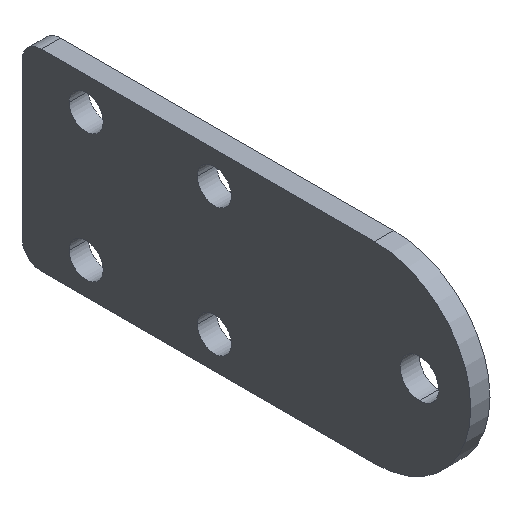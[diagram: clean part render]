
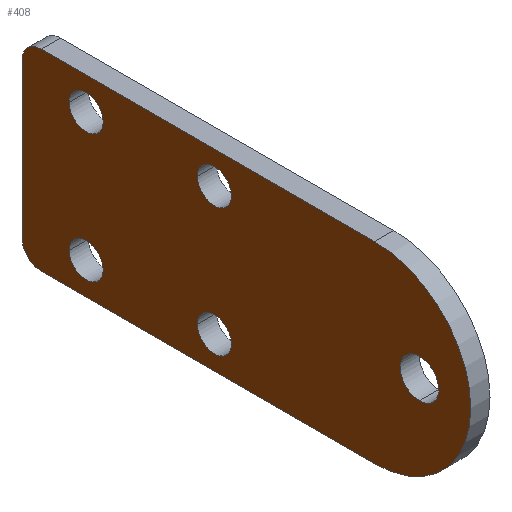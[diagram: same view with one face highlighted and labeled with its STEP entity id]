
A CAD part, isometric view. The second image highlights one B-rep face of the part: STEP entity #408.
In plain terms, the highlighted planar face has unit normal (-1, 0, 0).
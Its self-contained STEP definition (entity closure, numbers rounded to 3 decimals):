
#86=CARTESIAN_POINT('',(-3.,-62.,15.));
#87=DIRECTION('',(-1.,0.,0.));
#88=DIRECTION('',(0.,0.,-1.));
#89=AXIS2_PLACEMENT_3D('',#86,#87,#88);
#91=CARTESIAN_POINT('',(-3.,-62.,15.));
#92=DIRECTION('',(-1.,0.,0.));
#93=DIRECTION('',(0.,0.,1.));
#94=AXIS2_PLACEMENT_3D('',#91,#92,#93);
#96=CARTESIAN_POINT('',(-3.,-55.,15.));
#97=DIRECTION('',(-1.,0.,0.));
#98=DIRECTION('',(0.,0.,-1.));
#99=AXIS2_PLACEMENT_3D('',#96,#97,#98);
#101=DIRECTION('',(0.,1.,0.));
#102=VECTOR('',#101,52.);
#103=CARTESIAN_POINT('',(-3.,-55.,0.));
#104=LINE('',#103,#102);
#105=CARTESIAN_POINT('',(-3.,-3.,3.));
#106=DIRECTION('',(-1.,0.,0.));
#107=DIRECTION('',(0.,1.,0.));
#108=AXIS2_PLACEMENT_3D('',#105,#106,#107);
#110=DIRECTION('',(0.,0.,1.));
#111=VECTOR('',#110,24.);
#112=CARTESIAN_POINT('',(-3.,0.,3.));
#113=LINE('',#112,#111);
#114=CARTESIAN_POINT('',(-3.,-3.,27.));
#115=DIRECTION('',(-1.,0.,0.));
#116=DIRECTION('',(0.,0.,1.));
#117=AXIS2_PLACEMENT_3D('',#114,#115,#116);
#119=DIRECTION('',(0.,-1.,0.));
#120=VECTOR('',#119,52.);
#121=CARTESIAN_POINT('',(-3.,-3.,30.));
#122=LINE('',#121,#120);
#123=CARTESIAN_POINT('',(-3.,-10.,25.));
#124=DIRECTION('',(-1.,0.,0.));
#125=DIRECTION('',(0.,1.,0.));
#126=AXIS2_PLACEMENT_3D('',#123,#124,#125);
#128=CARTESIAN_POINT('',(-3.,-10.,25.));
#129=DIRECTION('',(-1.,0.,0.));
#130=DIRECTION('',(0.,-1.,0.));
#131=AXIS2_PLACEMENT_3D('',#128,#129,#130);
#133=CARTESIAN_POINT('',(-3.,-30.,25.));
#134=DIRECTION('',(-1.,0.,0.));
#135=DIRECTION('',(0.,1.,0.));
#136=AXIS2_PLACEMENT_3D('',#133,#134,#135);
#138=CARTESIAN_POINT('',(-3.,-30.,25.));
#139=DIRECTION('',(-1.,0.,0.));
#140=DIRECTION('',(0.,-1.,0.));
#141=AXIS2_PLACEMENT_3D('',#138,#139,#140);
#143=CARTESIAN_POINT('',(-3.,-30.,5.));
#144=DIRECTION('',(-1.,0.,0.));
#145=DIRECTION('',(0.,1.,0.));
#146=AXIS2_PLACEMENT_3D('',#143,#144,#145);
#148=CARTESIAN_POINT('',(-3.,-30.,5.));
#149=DIRECTION('',(-1.,0.,0.));
#150=DIRECTION('',(0.,-1.,0.));
#151=AXIS2_PLACEMENT_3D('',#148,#149,#150);
#153=CARTESIAN_POINT('',(-3.,-10.,5.));
#154=DIRECTION('',(-1.,0.,0.));
#155=DIRECTION('',(0.,1.,0.));
#156=AXIS2_PLACEMENT_3D('',#153,#154,#155);
#158=CARTESIAN_POINT('',(-3.,-10.,5.));
#159=DIRECTION('',(-1.,0.,0.));
#160=DIRECTION('',(0.,-1.,0.));
#161=AXIS2_PLACEMENT_3D('',#158,#159,#160);
#223=CARTESIAN_POINT('',(-3.,-62.,12.));
#224=CARTESIAN_POINT('',(-3.,-62.,18.));
#225=VERTEX_POINT('',#223);
#226=VERTEX_POINT('',#224);
#227=CARTESIAN_POINT('',(-3.,-55.,0.));
#228=CARTESIAN_POINT('',(-3.,-55.,30.));
#229=VERTEX_POINT('',#227);
#230=VERTEX_POINT('',#228);
#239=CARTESIAN_POINT('',(-3.,-3.,30.));
#240=VERTEX_POINT('',#239);
#241=CARTESIAN_POINT('',(-3.,-3.,0.));
#242=VERTEX_POINT('',#241);
#247=CARTESIAN_POINT('',(-3.,-7.35,25.));
#248=CARTESIAN_POINT('',(-3.,-12.65,25.));
#249=VERTEX_POINT('',#247);
#250=VERTEX_POINT('',#248);
#255=CARTESIAN_POINT('',(-3.,-27.35,25.));
#256=CARTESIAN_POINT('',(-3.,-32.65,25.));
#257=VERTEX_POINT('',#255);
#258=VERTEX_POINT('',#256);
#263=CARTESIAN_POINT('',(-3.,-27.35,5.));
#264=CARTESIAN_POINT('',(-3.,-32.65,5.));
#265=VERTEX_POINT('',#263);
#266=VERTEX_POINT('',#264);
#271=CARTESIAN_POINT('',(-3.,-7.35,5.));
#272=CARTESIAN_POINT('',(-3.,-12.65,5.));
#273=VERTEX_POINT('',#271);
#274=VERTEX_POINT('',#272);
#275=CARTESIAN_POINT('',(-3.,0.,27.));
#276=VERTEX_POINT('',#275);
#279=CARTESIAN_POINT('',(-3.,0.,3.));
#280=VERTEX_POINT('',#279);
#361=CARTESIAN_POINT('',(-3.,0.,0.));
#362=DIRECTION('',(1.,0.,0.));
#363=DIRECTION('',(0.,0.,-1.));
#364=AXIS2_PLACEMENT_3D('',#361,#362,#363);
#365=PLANE('',#364);
#367=ORIENTED_EDGE('',*,*,#366,.F.);
#369=ORIENTED_EDGE('',*,*,#368,.T.);
#371=ORIENTED_EDGE('',*,*,#370,.F.);
#373=ORIENTED_EDGE('',*,*,#372,.T.);
#375=ORIENTED_EDGE('',*,*,#374,.F.);
#377=ORIENTED_EDGE('',*,*,#376,.T.);
#378=EDGE_LOOP('',(#367,#369,#371,#373,#375,#377));
#379=FACE_OUTER_BOUND('',#378,.F.);
#380=ORIENTED_EDGE('',*,*,#341,.T.);
#381=ORIENTED_EDGE('',*,*,#355,.T.);
#382=EDGE_LOOP('',(#380,#381));
#383=FACE_BOUND('',#382,.F.);
#385=ORIENTED_EDGE('',*,*,#384,.T.);
#387=ORIENTED_EDGE('',*,*,#386,.T.);
#388=EDGE_LOOP('',(#385,#387));
#389=FACE_BOUND('',#388,.F.);
#391=ORIENTED_EDGE('',*,*,#390,.T.);
#393=ORIENTED_EDGE('',*,*,#392,.T.);
#394=EDGE_LOOP('',(#391,#393));
#395=FACE_BOUND('',#394,.F.);
#397=ORIENTED_EDGE('',*,*,#396,.T.);
#399=ORIENTED_EDGE('',*,*,#398,.T.);
#400=EDGE_LOOP('',(#397,#399));
#401=FACE_BOUND('',#400,.F.);
#403=ORIENTED_EDGE('',*,*,#402,.T.);
#405=ORIENTED_EDGE('',*,*,#404,.T.);
#406=EDGE_LOOP('',(#403,#405));
#407=FACE_BOUND('',#406,.F.);
#408=ADVANCED_FACE('',(#379,#383,#389,#395,#401,#407),#365,.F.);
#90=CIRCLE('',#89,3.);
#95=CIRCLE('',#94,3.);
#100=CIRCLE('',#99,15.);
#109=CIRCLE('',#108,3.);
#118=CIRCLE('',#117,3.);
#127=CIRCLE('',#126,2.65);
#132=CIRCLE('',#131,2.65);
#137=CIRCLE('',#136,2.65);
#142=CIRCLE('',#141,2.65);
#147=CIRCLE('',#146,2.65);
#152=CIRCLE('',#151,2.65);
#157=CIRCLE('',#156,2.65);
#162=CIRCLE('',#161,2.65);
#341=EDGE_CURVE('',#225,#226,#90,.T.);
#355=EDGE_CURVE('',#226,#225,#95,.T.);
#366=EDGE_CURVE('',#229,#230,#100,.T.);
#368=EDGE_CURVE('',#229,#242,#104,.T.);
#370=EDGE_CURVE('',#280,#242,#109,.T.);
#372=EDGE_CURVE('',#280,#276,#113,.T.);
#374=EDGE_CURVE('',#240,#276,#118,.T.);
#376=EDGE_CURVE('',#240,#230,#122,.T.);
#384=EDGE_CURVE('',#249,#250,#127,.T.);
#386=EDGE_CURVE('',#250,#249,#132,.T.);
#390=EDGE_CURVE('',#257,#258,#137,.T.);
#392=EDGE_CURVE('',#258,#257,#142,.T.);
#396=EDGE_CURVE('',#265,#266,#147,.T.);
#398=EDGE_CURVE('',#266,#265,#152,.T.);
#402=EDGE_CURVE('',#273,#274,#157,.T.);
#404=EDGE_CURVE('',#274,#273,#162,.T.);
